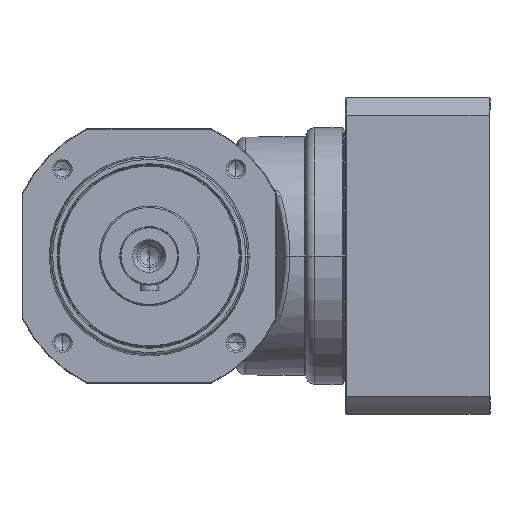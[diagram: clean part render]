
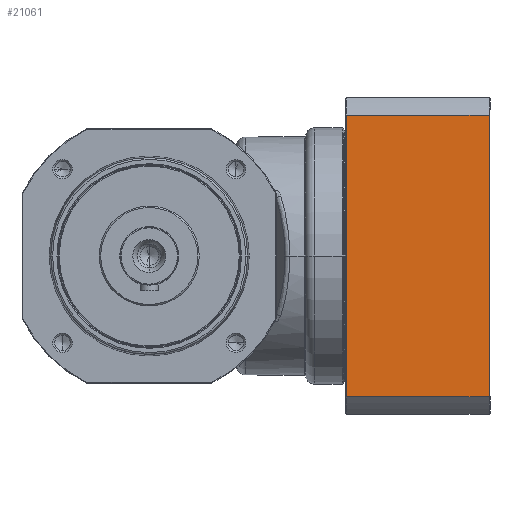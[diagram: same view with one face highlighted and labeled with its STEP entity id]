
A CAD part, left-side view. The second image highlights one B-rep face of the part: STEP entity #21061.
In plain terms, the highlighted planar face has unit normal (-1, 0, 0) as drawn and (0, -1, 0) by its records, which use the part's own axes.
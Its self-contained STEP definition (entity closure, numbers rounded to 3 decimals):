
#19917=DIRECTION('',(1.,0.,0.));
#19918=VECTOR('',#19917,154.961);
#19919=CARTESIAN_POINT('',(-77.481,-87.,
3.));
#19920=LINE('',#19919,#19918);
#19921=DIRECTION('',(0.,0.,1.));
#19922=VECTOR('',#19921,78.5);
#19923=CARTESIAN_POINT('',(-77.481,-87.,
3.));
#19924=LINE('',#19923,#19922);
#19925=DIRECTION('',(1.,0.,0.));
#19926=VECTOR('',#19925,154.961);
#19927=CARTESIAN_POINT('',(-77.481,-87.,
81.5));
#19928=LINE('',#19927,#19926);
#19929=DIRECTION('',(0.,0.,1.));
#19930=VECTOR('',#19929,78.5);
#19931=CARTESIAN_POINT('',(77.481,-87.,
3.));
#19932=LINE('',#19931,#19930);
#20626=CARTESIAN_POINT('',(-77.481,-87.,
81.5));
#20627=CARTESIAN_POINT('',(77.481,-87.,
81.5));
#20628=VERTEX_POINT('',#20626);
#20629=VERTEX_POINT('',#20627);
#20663=CARTESIAN_POINT('',(-77.481,-87.,3.));
#20665=VERTEX_POINT('',#20663);
#20668=CARTESIAN_POINT('',(77.481,-87.,
3.));
#20669=VERTEX_POINT('',#20668);
#21047=CARTESIAN_POINT('',(-87.,-87.,0.));
#21048=DIRECTION('',(0.,-1.,0.));
#21049=DIRECTION('',(1.,0.,0.));
#21050=AXIS2_PLACEMENT_3D('',#21047,#21048,#21049);
#21051=PLANE('',#21050);
#21052=ORIENTED_EDGE('',*,*,#21041,.F.);
#21054=ORIENTED_EDGE('',*,*,#21053,.T.);
#21056=ORIENTED_EDGE('',*,*,#21055,.T.);
#21058=ORIENTED_EDGE('',*,*,#21057,.F.);
#21059=EDGE_LOOP('',(#21052,#21054,#21056,#21058));
#21060=FACE_OUTER_BOUND('',#21059,.F.);
#21061=ADVANCED_FACE('',(#21060),#21051,.T.);
#21041=EDGE_CURVE('',#20665,#20669,#19920,.T.);
#21053=EDGE_CURVE('',#20665,#20628,#19924,.T.);
#21055=EDGE_CURVE('',#20628,#20629,#19928,.T.);
#21057=EDGE_CURVE('',#20669,#20629,#19932,.T.);
